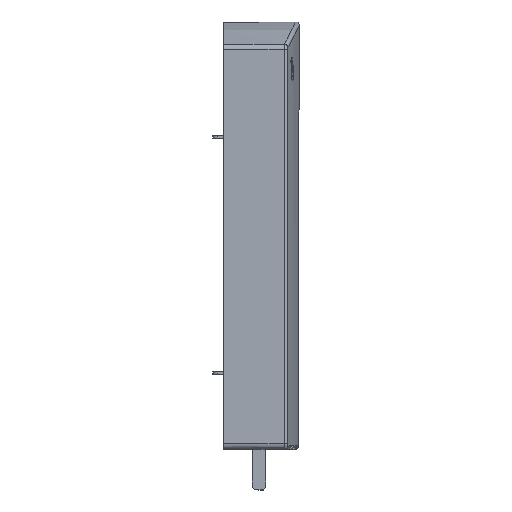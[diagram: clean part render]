
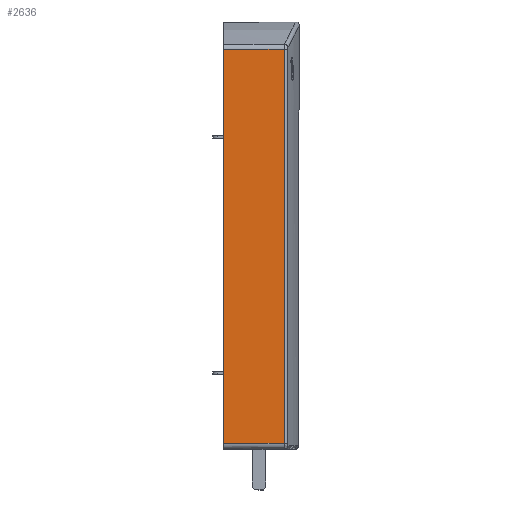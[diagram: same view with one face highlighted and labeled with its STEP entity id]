
A CAD part, top view. The second image highlights one B-rep face of the part: STEP entity #2636.
In plain terms, the highlighted planar face has unit normal (0, 0, 1).
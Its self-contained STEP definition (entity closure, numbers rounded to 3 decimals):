
#1258 = AXIS2_PLACEMENT_3D ( 'NONE', #5495, #5496, #5497 ) ;
#2636 = ADVANCED_FACE ( 'NONE', ( #5481 ), #5494, .T. ) ;
#4736 = EDGE_LOOP ( 'NONE', ( #4926, #4927, #4928, #4929 ) ) ;
#4926 = ORIENTED_EDGE ( 'NONE', *, *, #13691, .F. ) ;
#4927 = ORIENTED_EDGE ( 'NONE', *, *, #13692, .T. ) ;
#4928 = ORIENTED_EDGE ( 'NONE', *, *, #13693, .T. ) ;
#4929 = ORIENTED_EDGE ( 'NONE', *, *, #14186, .F. ) ;
#5481 = FACE_OUTER_BOUND ( 'NONE', #4736, .T. ) ;
#5494 = PLANE ( 'NONE',  #1258 ) ;
#5495 = CARTESIAN_POINT ( 'NONE',  ( 41.001, 207.096, 22.754 ) ) ;
#5496 = DIRECTION ( 'NONE',  ( 0., 0., 1. ) ) ;
#5497 = DIRECTION ( 'NONE',  ( 1., 0., 0. ) ) ;
#8050 = CARTESIAN_POINT ( 'NONE',  ( 0., -6.062, 22.754 ) ) ;
#8051 = CARTESIAN_POINT ( 'NONE',  ( 0., 207.096, 22.754 ) ) ;
#8124 = CARTESIAN_POINT ( 'NONE',  ( 32.709, 207.096, 22.754 ) ) ;
#8142 = CARTESIAN_POINT ( 'NONE',  ( 32.709, -6.062, 22.754 ) ) ;
#8182 = LINE ( 'NONE', #8198, #11032 ) ;
#8191 = LINE ( 'NONE', #8192, #11030 ) ;
#8192 = CARTESIAN_POINT ( 'NONE',  ( 41.001, -6.062, 22.754 ) ) ;
#8193 = DIRECTION ( 'NONE',  ( -1., 0., 0. ) ) ;
#8194 = LINE ( 'NONE', #8196, #11033 ) ;
#8196 = CARTESIAN_POINT ( 'NONE',  ( 32.709, 207.096, 22.754 ) ) ;
#8197 = DIRECTION ( 'NONE',  ( 0., 1., 0. ) ) ;
#8198 = CARTESIAN_POINT ( 'NONE',  ( 41.001, 207.096, 22.754 ) ) ;
#8199 = DIRECTION ( 'NONE',  ( -1., 0., 0. ) ) ;
#8994 = LINE ( 'NONE', #8995, #11152 ) ;
#8995 = CARTESIAN_POINT ( 'NONE',  ( 0., 207.096, 22.754 ) ) ;
#8996 = DIRECTION ( 'NONE',  ( 0., 1., 0. ) ) ;
#11030 = VECTOR ( 'NONE', #8193, 1000. ) ;
#11032 = VECTOR ( 'NONE', #8199, 1000. ) ;
#11033 = VECTOR ( 'NONE', #8197, 1000. ) ;
#11152 = VECTOR ( 'NONE', #8996, 1000. ) ;
#12899 = VERTEX_POINT ( 'NONE', #8050 ) ;
#12900 = VERTEX_POINT ( 'NONE', #8051 ) ;
#12973 = VERTEX_POINT ( 'NONE', #8124 ) ;
#12991 = VERTEX_POINT ( 'NONE', #8142 ) ;
#13691 = EDGE_CURVE ( 'NONE', #12991, #12899, #8191, .T. ) ;
#13692 = EDGE_CURVE ( 'NONE', #12991, #12973, #8194, .T. ) ;
#13693 = EDGE_CURVE ( 'NONE', #12973, #12900, #8182, .T. ) ;
#14186 = EDGE_CURVE ( 'NONE', #12899, #12900, #8994, .T. ) ;
